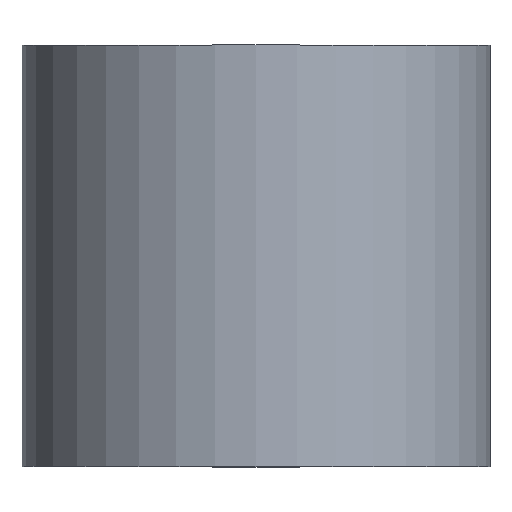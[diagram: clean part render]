
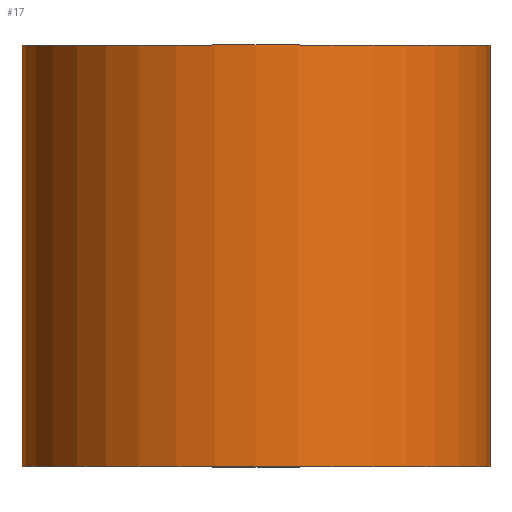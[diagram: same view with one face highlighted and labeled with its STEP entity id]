
A CAD part, top view. The second image highlights one B-rep face of the part: STEP entity #17.
In plain terms, the highlighted cylindrical face has radius 10 mm (diameter 20 mm), a full revolution.
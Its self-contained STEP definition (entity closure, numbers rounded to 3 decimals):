
#17 = ADVANCED_FACE('',(#18),#32,.T.);
#18 = FACE_BOUND('',#19,.T.);
#19 = EDGE_LOOP('',(#20,#50,#77,#78));
#20 = ORIENTED_EDGE('',*,*,#21,.T.);
#21 = EDGE_CURVE('',#22,#24,#26,.T.);
#22 = VERTEX_POINT('',#23);
#23 = CARTESIAN_POINT('',(10.,94.,300.));
#24 = VERTEX_POINT('',#25);
#25 = CARTESIAN_POINT('',(10.,112.,300.));
#26 = SEAM_CURVE('',#27,(#31,#43),.PCURVE_S1.);
#27 = LINE('',#28,#29);
#28 = CARTESIAN_POINT('',(10.,94.,300.));
#29 = VECTOR('',#30,1.);
#30 = DIRECTION('',(-0.,1.,-0.));
#31 = PCURVE('',#32,#37);
#32 = CYLINDRICAL_SURFACE('',#33,10.);
#33 = AXIS2_PLACEMENT_3D('',#34,#35,#36);
#34 = CARTESIAN_POINT('',(0.,94.,300.));
#35 = DIRECTION('',(0.,-1.,0.));
#36 = DIRECTION('',(1.,0.,0.));
#37 = DEFINITIONAL_REPRESENTATION('',(#38),#42);
#38 = LINE('',#39,#40);
#39 = CARTESIAN_POINT('',(0.,0.));
#40 = VECTOR('',#41,1.);
#41 = DIRECTION('',(0.,-1.));
#42 = ( GEOMETRIC_REPRESENTATION_CONTEXT(2) 
PARAMETRIC_REPRESENTATION_CONTEXT() REPRESENTATION_CONTEXT('2D SPACE',''
  ) );
#43 = PCURVE('',#32,#44);
#44 = DEFINITIONAL_REPRESENTATION('',(#45),#49);
#45 = LINE('',#46,#47);
#46 = CARTESIAN_POINT('',(6.283,0.));
#47 = VECTOR('',#48,1.);
#48 = DIRECTION('',(0.,-1.));
#49 = ( GEOMETRIC_REPRESENTATION_CONTEXT(2) 
PARAMETRIC_REPRESENTATION_CONTEXT() REPRESENTATION_CONTEXT('2D SPACE',''
  ) );
#50 = ORIENTED_EDGE('',*,*,#51,.T.);
#51 = EDGE_CURVE('',#24,#24,#52,.T.);
#52 = SURFACE_CURVE('',#53,(#58,#65),.PCURVE_S1.);
#53 = CIRCLE('',#54,10.);
#54 = AXIS2_PLACEMENT_3D('',#55,#56,#57);
#55 = CARTESIAN_POINT('',(0.,112.,300.));
#56 = DIRECTION('',(0.,-1.,0.));
#57 = DIRECTION('',(1.,0.,0.));
#58 = PCURVE('',#32,#59);
#59 = DEFINITIONAL_REPRESENTATION('',(#60),#64);
#60 = LINE('',#61,#62);
#61 = CARTESIAN_POINT('',(0.,-18.));
#62 = VECTOR('',#63,1.);
#63 = DIRECTION('',(1.,0.));
#64 = ( GEOMETRIC_REPRESENTATION_CONTEXT(2) 
PARAMETRIC_REPRESENTATION_CONTEXT() REPRESENTATION_CONTEXT('2D SPACE',''
  ) );
#65 = PCURVE('',#66,#71);
#66 = PLANE('',#67);
#67 = AXIS2_PLACEMENT_3D('',#68,#69,#70);
#68 = CARTESIAN_POINT('',(0.,112.,300.));
#69 = DIRECTION('',(-0.,-1.,-0.));
#70 = DIRECTION('',(0.,0.,-1.));
#71 = DEFINITIONAL_REPRESENTATION('',(#72),#76);
#72 = CIRCLE('',#73,10.);
#73 = AXIS2_PLACEMENT_2D('',#74,#75);
#74 = CARTESIAN_POINT('',(0.,0.));
#75 = DIRECTION('',(0.,1.));
#76 = ( GEOMETRIC_REPRESENTATION_CONTEXT(2) 
PARAMETRIC_REPRESENTATION_CONTEXT() REPRESENTATION_CONTEXT('2D SPACE',''
  ) );
#77 = ORIENTED_EDGE('',*,*,#21,.F.);
#78 = ORIENTED_EDGE('',*,*,#79,.F.);
#79 = EDGE_CURVE('',#22,#22,#80,.T.);
#80 = SURFACE_CURVE('',#81,(#86,#93),.PCURVE_S1.);
#81 = CIRCLE('',#82,10.);
#82 = AXIS2_PLACEMENT_3D('',#83,#84,#85);
#83 = CARTESIAN_POINT('',(0.,94.,300.));
#84 = DIRECTION('',(0.,-1.,0.));
#85 = DIRECTION('',(1.,0.,0.));
#86 = PCURVE('',#32,#87);
#87 = DEFINITIONAL_REPRESENTATION('',(#88),#92);
#88 = LINE('',#89,#90);
#89 = CARTESIAN_POINT('',(0.,0.));
#90 = VECTOR('',#91,1.);
#91 = DIRECTION('',(1.,0.));
#92 = ( GEOMETRIC_REPRESENTATION_CONTEXT(2) 
PARAMETRIC_REPRESENTATION_CONTEXT() REPRESENTATION_CONTEXT('2D SPACE',''
  ) );
#93 = PCURVE('',#94,#99);
#94 = PLANE('',#95);
#95 = AXIS2_PLACEMENT_3D('',#96,#97,#98);
#96 = CARTESIAN_POINT('',(0.,94.,300.));
#97 = DIRECTION('',(-0.,-1.,-0.));
#98 = DIRECTION('',(0.,0.,-1.));
#99 = DEFINITIONAL_REPRESENTATION('',(#100),#104);
#100 = CIRCLE('',#101,10.);
#101 = AXIS2_PLACEMENT_2D('',#102,#103);
#102 = CARTESIAN_POINT('',(0.,0.));
#103 = DIRECTION('',(0.,1.));
#104 = ( GEOMETRIC_REPRESENTATION_CONTEXT(2) 
PARAMETRIC_REPRESENTATION_CONTEXT() REPRESENTATION_CONTEXT('2D SPACE',''
  ) );
